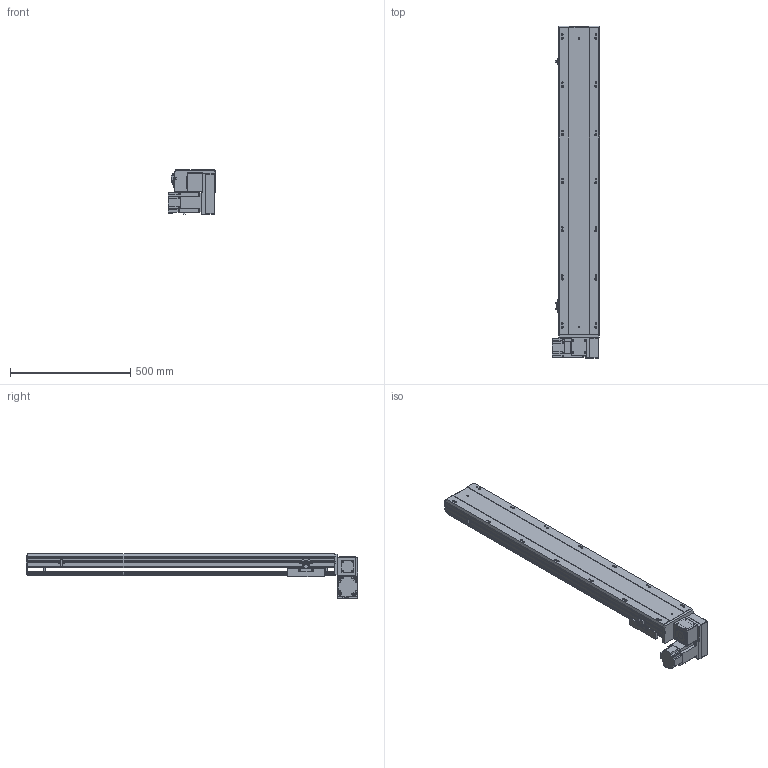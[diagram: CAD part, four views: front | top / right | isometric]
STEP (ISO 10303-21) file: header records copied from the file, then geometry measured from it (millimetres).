
FILE_DESCRIPTION (( 'STEP AP203' ), '1' );
FILE_NAME ('BTB17-L50-1000-LU-T75-C4.STEP', '2022-07-26T02:14:34', ( 'CXY' ), ( 'BT' ), 'SwSTEP 2.0', 'SolidWorks 2016', '' );
FILE_SCHEMA (( 'CONFIG_CONTROL_DESIGN' ));
Length unit declared in the file: millimetre
Products named in the file (10): T75; BTB17-L50-1000-LU-T75-C4; BTB17-L-01; BTB17-L-02; BTB17-L-06; BTB17-L-菁釱_XD; BTB17-L-HZ; BTB17-L-23; BTB17-L-24; BTB17-L-04
Assembly tree (12 placements, depth 2):
  BTB17-L50-1000-LU-T75-C4
    BTB17-L-菁釱_XD
    BTB17-L-01
    BTB17-L-04  x3
    BTB17-L-06
    BTB17-L-23  x2
    BTB17-L-24
    BTB17-L-HZ
    BTB17-L-02
    T75
Bounding box: 195.3 x 1379 x 186.5 mm (x, y, z)
Volume: 12270183.2 mm3; surface area: 1659162.6 mm2
Topology: 22 solids, 22 shells, 1588 faces, 4177 edges, 2642 vertices
Faces by surface type: plane 868, cylinder 540, cone 144, bspline 20, torus 16
Entity records: 40625 total; most frequent: CARTESIAN_POINT 7616, DIRECTION 6771, ORIENTED_EDGE 6514, EDGE_CURVE 3257, AXIS2_PLACEMENT_3D 2321, LINE 2129, VECTOR 2129, VERTEX_POINT 2110
